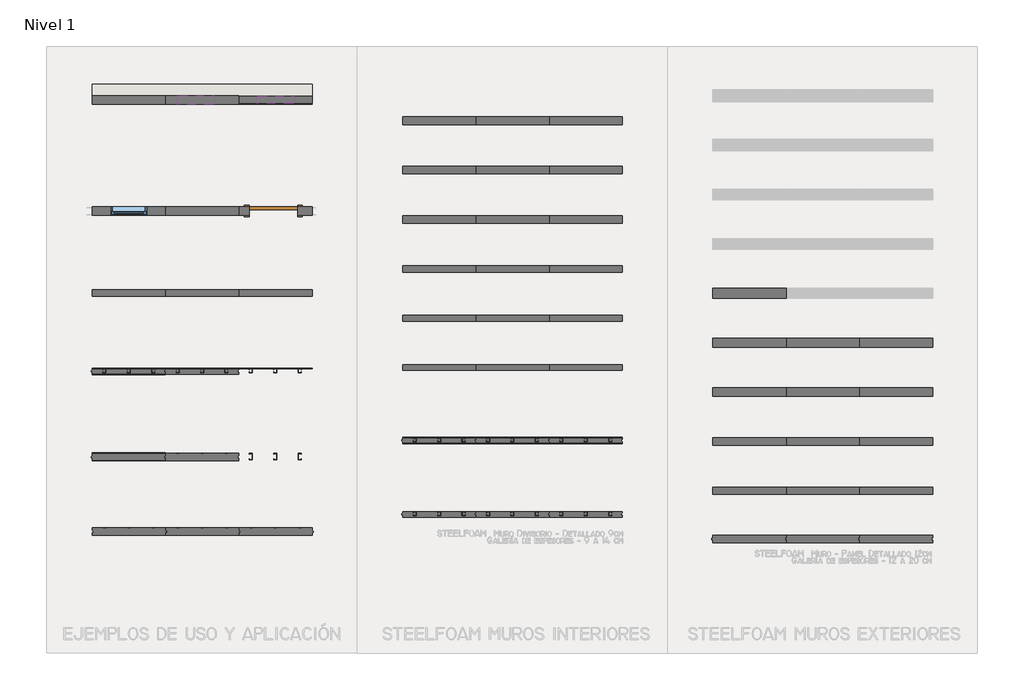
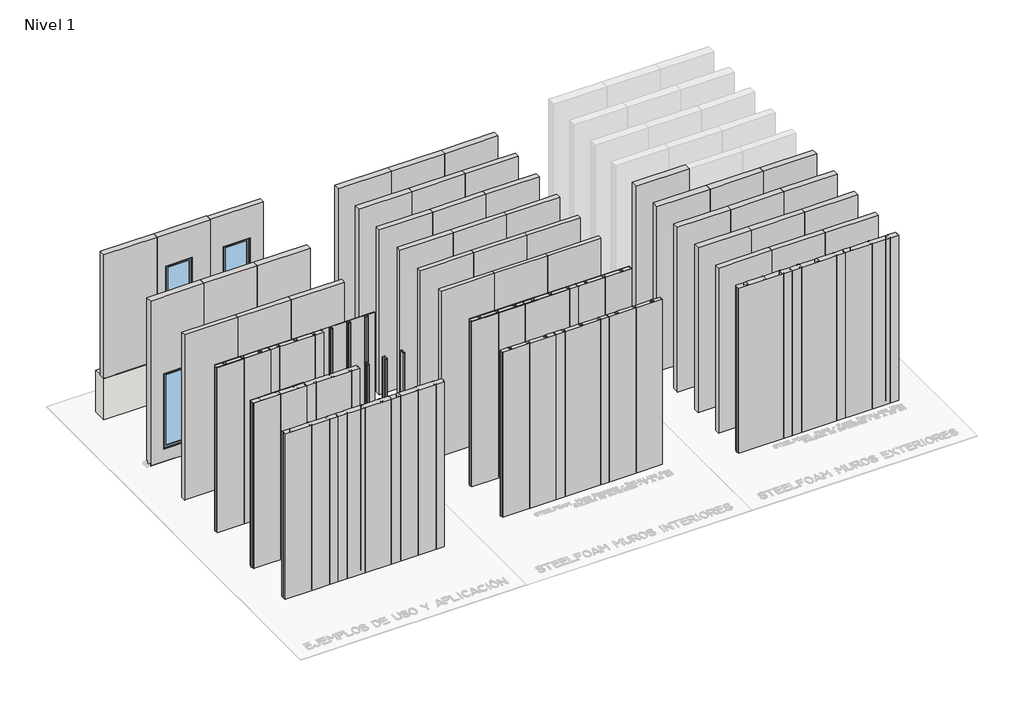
# One storey, part 1 of 6: 58 plates, 3 windows, 1 door, 1 wall.
"""IFC4 building model written with IfcOpenShell, lengths in millimetres."""

from ifc_helpers import new_model, si_unit, frame, origin, origin_with_axes, place, context, project, spatial, polyline, circle_curve, outline, extrude, faceted_brep, transform, mapped, element, save
from ifc_brep_helpers import plane_surface, cylinder_surface, revolved_surface, advanced_brep
from components import m_simple_a_ras_0813_x_2134mm_d0a8a436, plate_1ff2c585, plate_901790f3, plate_38784041, plate_d48fab5e, muro_12cm_0656d7b9, muro_12cm_a0bc951b, muro_12cm_e915ec84, muro_12cm_3b9f7b31, m_fijo_0610_x_1830mm_d2084b0e, m_fijo_0610_x_1830mm_736b37eb

model = new_model("IFC4")

# Units and contexts
model_context = context("Model", 3, world=origin())
ifc_project = project(units=[si_unit("LENGTHUNIT", "METRE", prefix="MILLI")], contexts=[model_context])

# Site, building, storey
site = spatial("IfcSite", under=ifc_project)
building = spatial("IfcBuilding", under=site)
storey = spatial("IfcBuildingStorey", under=building, Name="Nivel 1", Elevation=0.0)

# Door
placement = place(None, origin())
m_simple_a_ras_0813_x_2134mm_shape = m_simple_a_ras_0813_x_2134mm_d0a8a436(model_context)
element("IfcDoor", 1, ObjectType="M_Simple-A ras : 0813 x 2134mm", at=placement, inside=storey, context=model_context, shape_type="MappedRepresentation", body=[
    mapped(m_simple_a_ras_0813_x_2134mm_shape, transform((577.3592566, -2445.0871251, 0.0), x_axis=(-1.0, 0.0, 0.0), y_axis=(0.0, -1.0, 0.0), z_axis=(0.0, 0.0, 1.0))),
])

# Plates
element("IfcPlate", 2, ObjectType="Steelfoam Muro 12cm Acabados", at=placement, inside=storey, context=model_context, shape_type="AdvancedBrep", body=[
    advanced_brep(
    [(1219.8592563, -2516.5871251, 0.0), (1219.8592563, -2516.5871251, 4000.0), (-0.1407434, -2516.5871251, 4000.0), (-0.1407434, -2516.5871251, 0.0), (170.8592566, -2516.5871251, 0.0), (170.8592566, -2516.5871251, 2134.0), (983.8592566, -2516.5871251, 2134.0), (983.8592566, -2516.5871251, 0.0), (1219.8592563, -2373.5871251, 4000.0), (1219.8592563, -2373.5871251, 0.0), (983.8592566, -2373.5871251, 0.0), (983.8592566, -2373.5871251, 2134.0), (170.8592566, -2373.5871251, 2134.0), (170.8592566, -2373.5871251, 0.0), (-0.1407434, -2373.5871251, 0.0), (-0.1407434, -2373.5871251, 4000.0), (-0.1407434, -2504.5871251, 0.0), (170.8592566, -2504.5871251, 0.0), (170.8592566, -2392.5871251, 0.0), (-0.1407434, -2392.5871251, 0.0), (983.8592566, -2504.5871251, 0.0), (1219.8592563, -2504.5871251, 0.0), (1219.8592563, -2392.5871251, 0.0), (983.8592566, -2392.5871251, 0.0), (1219.8592563, -2508.7871251, 4.2), (1219.8592563, -2508.7871251, 60.2), (1219.8592563, -2508.5871251, 59.3126662), (1219.8592563, -2508.5871251, 4.2), (1219.8592563, -2504.5871251, 0.2), (1219.8592563, -2392.5871251, 0.2), (1219.8592563, -2388.5871251, 4.2), (1219.8592563, -2388.5871251, 59.3231849), (1219.8592563, -2388.3871251, 60.2), (1219.8592563, -2388.3871251, 4.2), (-0.1407434, -2388.3871251, 4.2), (-0.1407434, -2388.3871251, 60.2), (-0.1407434, -2388.5871251, 59.3231849), (-0.1407434, -2388.5871251, 4.2), (-0.1407434, -2392.5871251, 0.2), (-0.1407434, -2504.5871251, 0.2), (-0.1407434, -2508.5871251, 4.2), (-0.1407434, -2508.5871251, 59.3126662), (-0.1407434, -2508.7871251, 60.2), (-0.1407434, -2508.7871251, 4.2), (170.8592566, -2504.5871251, 0.2), (170.8592566, -2392.5871251, 0.2), (170.8592566, -2388.5871251, 4.2), (170.8592566, -2388.5871251, 59.3231849), (170.8592566, -2388.3871251, 60.2), (170.8592566, -2388.3871251, 4.2), (170.8592566, -2508.7871251, 4.2), (170.8592566, -2508.7871251, 60.2), (170.8592566, -2508.5871251, 59.3126662), (170.8592566, -2508.5871251, 4.2), (983.8592566, -2388.3871251, 4.2), (983.8592566, -2388.3871251, 60.2), (983.8592566, -2388.5871251, 59.3231849), (983.8592566, -2388.5871251, 4.2), (983.8592566, -2392.5871251, 0.2), (983.8592566, -2504.5871251, 0.2), (983.8592566, -2508.5871251, 4.2), (983.8592566, -2508.5871251, 59.3126662), (983.8592566, -2508.7871251, 60.2), (983.8592566, -2508.7871251, 4.2)],
    [
        (0, 1),
        (1, 2),
        (2, 3),
        (3, 4),
        (4, 5),
        (5, 6),
        (6, 7),
        (7, 0),
        (8, 9),
        (9, 10),
        (10, 11),
        (11, 12),
        (12, 13),
        (13, 14),
        (14, 15),
        (15, 8),
        (3, 16),
        (16, 17),
        (17, 4),
        (13, 18),
        (18, 19),
        (19, 14),
        (7, 20),
        (20, 21),
        (21, 0),
        (9, 22),
        (22, 23),
        (23, 10),
        (21, 24, circle_curve(frame((1219.8592563, -2504.5871251, 4.2), z_axis=(-1.0, 0.0, 0.0), x_axis=(0.0, -1.0, 0.0)), 4.2)),
        (24, 25),
        (25, 26),
        (26, 27),
        (27, 28, circle_curve(frame((1219.8592563, -2504.5871251, 4.2), z_axis=(1.0, 0.0, 0.0), x_axis=(0.0, -1.0, 0.0)), 4.0)),
        (28, 29),
        (29, 30, circle_curve(frame((1219.8592563, -2392.5871251, 4.2), z_axis=(1.0, 0.0, 0.0), x_axis=(0.0, -1.0, 0.0)), 4.0)),
        (30, 31),
        (31, 32),
        (32, 33),
        (33, 22, circle_curve(frame((1219.8592563, -2392.5871251, 4.2), z_axis=(-1.0, 0.0, 0.0), x_axis=(0.0, -1.0, 0.0)), 4.2)),
        (8, 1),
        (15, 2),
        (19, 34, circle_curve(frame((-0.1407434, -2392.5871251, 4.2), z_axis=(1.0, 0.0, 0.0), x_axis=(0.0, -1.0, 0.0)), 4.2)),
        (34, 35),
        (35, 36),
        (36, 37),
        (37, 38, circle_curve(frame((-0.1407434, -2392.5871251, 4.2), z_axis=(-1.0, 0.0, 0.0), x_axis=(0.0, -1.0, 0.0)), 4.0)),
        (38, 39),
        (39, 40, circle_curve(frame((-0.1407434, -2504.5871251, 4.2), z_axis=(-1.0, 0.0, 0.0), x_axis=(0.0, -1.0, 0.0)), 4.0)),
        (40, 41),
        (41, 42),
        (42, 43),
        (43, 16, circle_curve(frame((-0.1407434, -2504.5871251, 4.2), z_axis=(1.0, 0.0, 0.0), x_axis=(0.0, -1.0, 0.0)), 4.2)),
        (44, 39),
        (38, 45),
        (45, 44),
        (37, 46),
        (46, 45, circle_curve(frame((170.8592566, -2392.5871251, 4.2), z_axis=(-1.0, 0.0, 0.0), x_axis=(0.0, -1.0, 0.0)), 4.0)),
        (36, 47),
        (47, 46),
        (35, 48),
        (48, 47),
        (34, 49),
        (49, 48),
        (18, 49, circle_curve(frame((170.8592566, -2392.5871251, 4.2), z_axis=(1.0, 0.0, 0.0), x_axis=(0.0, -1.0, 0.0)), 4.2)),
        (43, 50),
        (50, 17, circle_curve(frame((170.8592566, -2504.5871251, 4.2), z_axis=(1.0, 0.0, 0.0), x_axis=(0.0, -1.0, 0.0)), 4.2)),
        (51, 42),
        (41, 52),
        (52, 51),
        (40, 53),
        (53, 52),
        (44, 53, circle_curve(frame((170.8592566, -2504.5871251, 4.2), z_axis=(-1.0, 0.0, 0.0), x_axis=(0.0, -1.0, 0.0)), 4.0)),
        (51, 50),
        (12, 5),
        (11, 6),
        (23, 54, circle_curve(frame((983.8592566, -2392.5871251, 4.2), z_axis=(1.0, 0.0, 0.0), x_axis=(0.0, -1.0, 0.0)), 4.2)),
        (54, 55),
        (55, 56),
        (56, 57),
        (57, 58, circle_curve(frame((983.8592566, -2392.5871251, 4.2), z_axis=(-1.0, 0.0, 0.0), x_axis=(0.0, -1.0, 0.0)), 4.0)),
        (58, 59),
        (59, 60, circle_curve(frame((983.8592566, -2504.5871251, 4.2), z_axis=(-1.0, 0.0, 0.0), x_axis=(0.0, -1.0, 0.0)), 4.0)),
        (60, 61),
        (61, 62),
        (62, 63),
        (63, 20, circle_curve(frame((983.8592566, -2504.5871251, 4.2), z_axis=(1.0, 0.0, 0.0), x_axis=(0.0, -1.0, 0.0)), 4.2)),
        (28, 59),
        (58, 29),
        (57, 30),
        (56, 31),
        (55, 32),
        (54, 33),
        (63, 24),
        (62, 25),
        (61, 26),
        (60, 27),
    ],
    [
        plane_surface(frame((79.8592563, -2516.5871251, 0.0), z_axis=(0.0, -1.0, 0.0), x_axis=(1.0, 0.0, 0.0))),
        plane_surface(frame((79.8592563, -2373.5871251, 0.0), z_axis=(0.0, 1.0, 0.0), x_axis=(-1.0, 0.0, 0.0))),
        plane_surface(frame((-0.1407434, -2516.5871251, 0.0), z_axis=(0.0, 0.0, -1.0), x_axis=(0.0, 1.0, 0.0))),
        plane_surface(frame((1219.8592563, -2516.5871251, 0.0), z_axis=(1.0, 0.0, 0.0), x_axis=(0.0, 1.0, 0.0))),
        plane_surface(frame((1219.8592563, -2516.5871251, 4000.0), z_axis=(0.0, 0.0, 1.0), x_axis=(0.0, 1.0, 0.0))),
        plane_surface(frame((-0.1407434, -2516.5871251, 4000.0), z_axis=(-1.0, 0.0, 0.0), x_axis=(0.0, 1.0, 0.0))),
        plane_surface(frame((-2529.1407434, -2504.5871251, 0.2), z_axis=(0.0, 0.0, -1.0), x_axis=(1.0, 0.0, 0.0))),
        cylinder_surface(frame((-2529.1407434, -2392.5871251, 4.2), z_axis=(1.0, 0.0, 0.0), x_axis=(0.0, -1.0, 0.0)), 4.0),
        plane_surface(frame((-2529.1407434, -2388.5871251, 4.2), z_axis=(0.0, 1.0, 0.0), x_axis=(1.0, 0.0, 0.0))),
        plane_surface(frame((-2529.1407434, -2388.5871251, 59.3231849), z_axis=(0.0, 0.9749586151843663, -0.2223863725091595), x_axis=(1.0, 0.0, 0.0))),
        plane_surface(frame((-2529.1407434, -2388.3871251, 60.2), z_axis=(0.0, -1.0, 0.0), x_axis=(1.0, 0.0, 0.0))),
        revolved_surface(polyline([(-0.14074339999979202, -2396.7871250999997, 4.2), (170.8592566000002, -2396.7871250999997, 4.2)]), (-2529.1407434, -2392.5871251, 4.2), (-1.0, 0.0, 0.0)),
        revolved_surface(polyline([(-0.14074339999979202, -2508.7871250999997, 4.2), (170.8592566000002, -2508.7871250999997, 4.2)]), (-2529.1407434, -2504.5871251, 4.2), (-1.0, 0.0, 0.0)),
        plane_surface(frame((-2529.1407434, -2508.7871251, 60.2), z_axis=(0.0, -0.9755273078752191, -0.21987831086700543), x_axis=(1.0, 0.0, 0.0))),
        plane_surface(frame((-2529.1407434, -2508.5871251, 59.3126662), z_axis=(0.0, -1.0, 0.0), x_axis=(1.0, 0.0, 0.0))),
        cylinder_surface(frame((-2529.1407434, -2504.5871251, 4.2), z_axis=(1.0, 0.0, 0.0), x_axis=(0.0, -1.0, 0.0)), 4.0),
        plane_surface(frame((-2529.1407434, -2508.7871251, 4.2), z_axis=(0.0, 1.0, 0.0), x_axis=(1.0, 0.0, 0.0))),
        plane_surface(frame((170.8592566, -992.5871251, 0.0), z_axis=(1.0, 0.0, 0.0), x_axis=(0.0, -1.0, 0.0))),
        plane_surface(frame((170.8592566, -992.5871251, 2134.0), z_axis=(0.0, 0.0, -1.0), x_axis=(0.0, -1.0, 0.0))),
        plane_surface(frame((983.8592566, -992.5871251, 2134.0), z_axis=(-1.0, 0.0, 0.0), x_axis=(0.0, -1.0, 0.0))),
        plane_surface(frame((983.8592566, -2504.5871251, 0.2), z_axis=(0.0, 0.0, -1.0), x_axis=(1.0, 0.0, 0.0))),
        cylinder_surface(frame((983.8592566, -2392.5871251, 4.2), z_axis=(1.0, 0.0, 0.0), x_axis=(0.0, -1.0, 0.0)), 4.0),
        plane_surface(frame((983.8592566, -2388.5871251, 4.2), z_axis=(0.0, 1.0, 0.0), x_axis=(1.0, 0.0, 0.0))),
        plane_surface(frame((983.8592566, -2388.5871251, 59.3231849), z_axis=(0.0, 0.9749586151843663, -0.2223863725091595), x_axis=(1.0, 0.0, 0.0))),
        plane_surface(frame((983.8592566, -2388.3871251, 60.2), z_axis=(0.0, -1.0, 0.0), x_axis=(1.0, 0.0, 0.0))),
        revolved_surface(polyline([(983.8592566, -2396.7871250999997, 4.2), (1219.8592563, -2396.7871250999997, 4.2)]), (983.8592566, -2392.5871251, 4.2), (-1.0, 0.0, 0.0)),
        revolved_surface(polyline([(983.8592566, -2508.7871250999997, 4.2), (1219.8592563, -2508.7871250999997, 4.2)]), (983.8592566, -2504.5871251, 4.2), (-1.0, 0.0, 0.0)),
        plane_surface(frame((983.8592566, -2508.7871251, 4.2), z_axis=(0.0, 1.0, 0.0), x_axis=(1.0, 0.0, 0.0))),
        plane_surface(frame((983.8592566, -2508.7871251, 60.2), z_axis=(0.0, -0.9755273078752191, -0.21987831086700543), x_axis=(1.0, 0.0, 0.0))),
        plane_surface(frame((983.8592566, -2508.5871251, 59.3126662), z_axis=(0.0, -1.0, 0.0), x_axis=(1.0, 0.0, 0.0))),
        cylinder_surface(frame((983.8592566, -2504.5871251, 4.2), z_axis=(1.0, 0.0, 0.0), x_axis=(0.0, -1.0, 0.0)), 4.0),
    ],
    [
        (0, [[1, 2, 3, 4, 5, 6, 7, 8]]),
        (1, [[9, 10, 11, 12, 13, 14, 15, 16]]),
        (2, [[-4, 17, 18, 19]]),
        (2, [[-14, 20, 21, 22]]),
        (2, [[-8, 23, 24, 25]]),
        (2, [[-10, 26, 27, 28]]),
        (3, [[-1, -25, 29, 30, 31, 32, 33, 34, 35, 36, 37, 38, 39, -26, -9, 40]]),
        (4, [[-2, -40, -16, 41]]),
        (5, [[-3, -41, -15, -22, 42, 43, 44, 45, 46, 47, 48, 49, 50, 51, 52, -17]]),
        (6, [[53, -47, 54, 55]]),
        (7, [[-54, -46, 56, 57]]),
        (8, [[-56, -45, 58, 59]]),
        (9, [[-58, -44, 60, 61]]),
        (10, [[-60, -43, 62, 63]]),
        (11, [[-62, -42, -21, 64]]),
        (12, [[65, 66, -18, -52]]),
        (13, [[67, -50, 68, 69]]),
        (14, [[-68, -49, 70, 71]]),
        (15, [[-53, 72, -70, -48]]),
        (16, [[-67, 73, -65, -51]]),
        (17, [[74, -5, -19, -66, -73, -69, -71, -72, -55, -57, -59, -61, -63, -64, -20, -13]]),
        (18, [[-74, -12, 75, -6]]),
        (19, [[-75, -11, -28, 76, 77, 78, 79, 80, 81, 82, 83, 84, 85, 86, -23, -7]]),
        (20, [[87, -81, 88, -34]]),
        (21, [[-88, -80, 89, -35]]),
        (22, [[-89, -79, 90, -36]]),
        (23, [[-90, -78, 91, -37]]),
        (24, [[-91, -77, 92, -38]]),
        (25, [[-92, -76, -27, -39]]),
        (26, [[93, -29, -24, -86]]),
        (27, [[-93, -85, 94, -30]]),
        (28, [[-94, -84, 95, -31]]),
        (29, [[-95, -83, 96, -32]]),
        (30, [[-87, -33, -96, -82]]),
    ],
),
])
element("IfcPlate", 3, ObjectType="Steelfoam Muro 12cm Acabados", at=placement, inside=storey, context=model_context, shape_type="SweptSolid", body=[
    extrude(outline(polyline([(-0.1407434, -2516.5871251), (-1220.1407434, -2516.5871251), (-1220.1407434, -2373.5871251), (-0.1407434, -2373.5871251), (-0.1407434, -2516.5871251)])), origin_with_axes(), (0.0, 0.0, 1.0), 4000.0),
])
element("IfcPlate", 4, ObjectType="Steelfoam Muro 12cm Acabados", at=placement, inside=storey, context=model_context, shape_type="SweptSolid", body=[
    extrude(outline(polyline([(1000.0, -1220.1407434), (1000.0, -0.1407434), (4000.0, -0.1407434), (4000.0, -1220.1407434), (1000.0, -1220.1407434)]), holes=[polyline([(3230.0, -410.1407434), (1400.0, -410.1407434), (1400.0, -1020.1407434), (3230.0, -1020.1407434), (3230.0, -410.1407434)])]), frame((0.0, -665.6879397, 0.0), z_axis=(0.0, 1.0, 0.0), x_axis=(0.0, 0.0, 1.0)), (0.0, 0.0, 1.0), 143.0),
])
element("IfcPlate", 5, ObjectType="Steelfoam Muro 12cm", at=placement, inside=storey, context=model_context, shape_type="SweptSolid", body=[
    extrude(outline(polyline([(1000.0, -0.1407434), (1000.0, 1219.8592563), (4000.0, 1219.8592563), (4000.0, -0.1407434), (1000.0, -0.1407434)]), holes=[polyline([(3230.0, 914.8592565), (1400.0, 914.8592565), (1400.0, 304.8592565), (3230.0, 304.8592565), (3230.0, 914.8592565)])]), frame((0.0, -654.1879397, 0.0), z_axis=(0.0, 1.0, 0.0), x_axis=(0.0, 0.0, 1.0)), (0.0, 0.0, 1.0), 120.0),
])
element("IfcPlate", 6, ObjectType="Steelfoam Muro 12cm Acabados", at=placement, inside=storey, context=model_context, shape_type="SweptSolid", body=[
    extrude(outline(polyline([(0.0, -2440.1407437), (0.0, -1220.1407434), (4000.0, -1220.1407434), (4000.0, -2440.1407437), (0.0, -2440.1407437)]), holes=[polyline([(2135.0, -1525.1407435), (305.0, -1525.1407435), (305.0, -2135.1407435), (2135.0, -2135.1407435), (2135.0, -1525.1407435)])]), frame((0.0, -2516.5871251, 0.0), z_axis=(0.0, 1.0, 0.0), x_axis=(0.0, 0.0, 1.0)), (0.0, 0.0, 1.0), 143.0),
])
element("IfcPlate", 7, ObjectType="Steelfoam Muro 12cm Acabados", at=placement, inside=storey, context=model_context, shape_type="SweptSolid", body=[
    extrude(outline(polyline([(-1220.1407434, -665.6879397), (-2440.1407437, -665.6879397), (-2440.1407437, -522.6879397), (-1220.1407434, -522.6879397), (-1220.1407434, -665.6879397)])), frame((0.0, 0.0, 1000.0), z_axis=(0.0, 0.0, 1.0), x_axis=(1.0, 0.0, 0.0)), (0.0, 0.0, 1.0), 3000.0),
])
element("IfcPlate", 8, ObjectType="Steelfoam Muro 12cm", at=placement, inside=storey, context=model_context, shape_type="SweptSolid", body=[
    extrude(outline(polyline([(11553.8816566, -7163.5374304), (10333.8816569, -7163.5374304), (10333.8816569, -7043.5374304), (11553.8816566, -7043.5374304), (11553.8816566, -7163.5374304)])), origin_with_axes(), (0.0, 0.0, 1.0), 4000.0),
])
element("IfcPlate", 9, ObjectType="Steelfoam Muro 12cm", at=placement, inside=storey, context=model_context, shape_type="SweptSolid", body=[
    extrude(outline(polyline([(10333.8816569, -7163.5374304), (9113.8816569, -7163.5374304), (9113.8816569, -7043.5374304), (10333.8816569, -7043.5374304), (10333.8816569, -7163.5374304)])), origin_with_axes(), (0.0, 0.0, 1.0), 4000.0),
])
element("IfcPlate", 10, ObjectType="Steelfoam Muro 12cm", at=placement, inside=storey, context=model_context, shape_type="SweptSolid", body=[
    extrude(outline(polyline([(9113.8816569, -7163.5374304), (7893.8816566, -7163.5374304), (7893.8816566, -7043.5374304), (9113.8816569, -7043.5374304), (9113.8816569, -7163.5374304)])), origin_with_axes(), (0.0, 0.0, 1.0), 4000.0),
])
element("IfcPlate", 11, ObjectType="Steelfoam Muro 13cm", at=placement, inside=storey, context=model_context, shape_type="SweptSolid", body=[
    extrude(outline(polyline([(11553.8816566, -6346.3152082), (10333.8816569, -6346.3152082), (10333.8816569, -6216.3152082), (11553.8816566, -6216.3152082), (11553.8816566, -6346.3152082)])), origin_with_axes(), (0.0, 0.0, 1.0), 4000.0),
])
element("IfcPlate", 12, ObjectType="Steelfoam Muro 13cm", at=placement, inside=storey, context=model_context, shape_type="SweptSolid", body=[
    extrude(outline(polyline([(10333.8816569, -6346.3152082), (9113.8816569, -6346.3152082), (9113.8816569, -6216.3152082), (10333.8816569, -6216.3152082), (10333.8816569, -6346.3152082)])), origin_with_axes(), (0.0, 0.0, 1.0), 4000.0),
])
element("IfcPlate", 13, ObjectType="Steelfoam Muro 13cm", at=placement, inside=storey, context=model_context, shape_type="SweptSolid", body=[
    extrude(outline(polyline([(9113.8816569, -6346.3152082), (7893.8816566, -6346.3152082), (7893.8816566, -6216.3152082), (9113.8816569, -6216.3152082), (9113.8816569, -6346.3152082)])), origin_with_axes(), (0.0, 0.0, 1.0), 4000.0),
])
element("IfcPlate", 14, ObjectType="Steelfoam Divisorio 14cm", at=placement, inside=storey, context=model_context, shape_type="SweptSolid", body=[
    extrude(outline(polyline([(11553.8816566, -5529.092986), (10333.8816569, -5529.092986), (10333.8816569, -5389.092986), (11553.8816566, -5389.092986), (11553.8816566, -5529.092986)])), origin_with_axes(), (0.0, 0.0, 1.0), 4000.0),
])
element("IfcPlate", 15, ObjectType="Steelfoam Divisorio 14cm", at=placement, inside=storey, context=model_context, shape_type="SweptSolid", body=[
    extrude(outline(polyline([(10333.8816569, -5529.092986), (9113.8816569, -5529.092986), (9113.8816569, -5389.092986), (10333.8816569, -5389.092986), (10333.8816569, -5529.092986)])), origin_with_axes(), (0.0, 0.0, 1.0), 4000.0),
])
element("IfcPlate", 16, ObjectType="Steelfoam Divisorio 14cm", at=placement, inside=storey, context=model_context, shape_type="SweptSolid", body=[
    extrude(outline(polyline([(9113.8816569, -5529.092986), (7893.8816566, -5529.092986), (7893.8816566, -5389.092986), (9113.8816569, -5389.092986), (9113.8816569, -5529.092986)])), origin_with_axes(), (0.0, 0.0, 1.0), 4000.0),
])
element("IfcPlate", 17, ObjectType="Steelfoam Muro 15cm", at=placement, inside=storey, context=model_context, shape_type="SweptSolid", body=[
    extrude(outline(polyline([(11553.8816566, -4711.8707637), (10333.8816569, -4711.8707637), (10333.8816569, -4561.8707637), (11553.8816566, -4561.8707637), (11553.8816566, -4711.8707637)])), origin_with_axes(), (0.0, 0.0, 1.0), 4000.0),
])
element("IfcPlate", 18, ObjectType="Steelfoam Muro 15cm", at=placement, inside=storey, context=model_context, shape_type="SweptSolid", body=[
    extrude(outline(polyline([(10333.8816569, -4711.8707637), (9113.8816569, -4711.8707637), (9113.8816569, -4561.8707637), (10333.8816569, -4561.8707637), (10333.8816569, -4711.8707637)])), origin_with_axes(), (0.0, 0.0, 1.0), 4000.0),
])
element("IfcPlate", 19, ObjectType="Steelfoam Muro 15cm", at=placement, inside=storey, context=model_context, shape_type="SweptSolid", body=[
    extrude(outline(polyline([(9113.8816569, -4711.8707637), (7893.8816566, -4711.8707637), (7893.8816566, -4561.8707637), (9113.8816569, -4561.8707637), (9113.8816569, -4711.8707637)])), origin_with_axes(), (0.0, 0.0, 1.0), 4000.0),
])
element("IfcPlate", 20, ObjectType="Steelfoam Muro 16cm", at=placement, inside=storey, context=model_context, shape_type="SweptSolid", body=[
    extrude(outline(polyline([(9113.8816569, -3894.6485415), (7893.8816566, -3894.6485415), (7893.8816566, -3734.6485415), (9113.8816569, -3734.6485415), (9113.8816569, -3894.6485415)])), origin_with_axes(), (0.0, 0.0, 1.0), 4000.0),
])
element("IfcPlate", 21, ObjectType="Steelfoam Divisorio 12cm", at=placement, inside=storey, context=model_context, shape_type="SweptSolid", body=[
    extrude(outline(polyline([(6387.4091582, -2645.8736336), (5167.4091585, -2645.8736336), (5167.4091585, -2525.8736336), (6387.4091582, -2525.8736336), (6387.4091582, -2645.8736336)])), origin_with_axes(), (0.0, 0.0, 1.0), 4000.0),
])
element("IfcPlate", 22, ObjectType="Steelfoam Divisorio 12cm", at=placement, inside=storey, context=model_context, shape_type="SweptSolid", body=[
    extrude(outline(polyline([(5167.4091585, -2645.8736336), (3947.4091585, -2645.8736336), (3947.4091585, -2525.8736336), (5167.4091585, -2525.8736336), (5167.4091585, -2645.8736336)])), origin_with_axes(), (0.0, 0.0, 1.0), 4000.0),
])
element("IfcPlate", 23, ObjectType="Steelfoam Divisorio 12cm", at=placement, inside=storey, context=model_context, shape_type="SweptSolid", body=[
    extrude(outline(polyline([(3947.4091585, -2645.8736336), (2727.4091582, -2645.8736336), (2727.4091582, -2525.8736336), (3947.4091585, -2525.8736336), (3947.4091585, -2645.8736336)])), origin_with_axes(), (0.0, 0.0, 1.0), 4000.0),
])
element("IfcPlate", 24, ObjectType="Steelfoam Divisorio 13cm", at=placement, inside=storey, context=model_context, shape_type="SweptSolid", body=[
    extrude(outline(polyline([(6387.4091582, -1828.6514114), (5167.4091585, -1828.6514114), (5167.4091585, -1698.6514114), (6387.4091582, -1698.6514114), (6387.4091582, -1828.6514114)])), origin_with_axes(), (0.0, 0.0, 1.0), 4000.0),
])
element("IfcPlate", 25, ObjectType="Steelfoam Divisorio 13cm", at=placement, inside=storey, context=model_context, shape_type="SweptSolid", body=[
    extrude(outline(polyline([(5167.4091585, -1828.6514114), (3947.4091585, -1828.6514114), (3947.4091585, -1698.6514114), (5167.4091585, -1698.6514114), (5167.4091585, -1828.6514114)])), origin_with_axes(), (0.0, 0.0, 1.0), 4000.0),
])
element("IfcPlate", 26, ObjectType="Steelfoam Divisorio 13cm", at=placement, inside=storey, context=model_context, shape_type="SweptSolid", body=[
    extrude(outline(polyline([(3947.4091585, -1828.6514114), (2727.4091582, -1828.6514114), (2727.4091582, -1698.6514114), (3947.4091585, -1698.6514114), (3947.4091585, -1828.6514114)])), origin_with_axes(), (0.0, 0.0, 1.0), 4000.0),
])
element("IfcPlate", 27, ObjectType="Steelfoam Divisorio 14cm", at=placement, inside=storey, context=model_context, shape_type="SweptSolid", body=[
    extrude(outline(polyline([(6387.4091582, -1011.4291891), (5167.4091585, -1011.4291891), (5167.4091585, -871.4291891), (6387.4091582, -871.4291891), (6387.4091582, -1011.4291891)])), origin_with_axes(), (0.0, 0.0, 1.0), 4000.0),
])
element("IfcPlate", 28, ObjectType="Steelfoam Divisorio 14cm", at=placement, inside=storey, context=model_context, shape_type="SweptSolid", body=[
    extrude(outline(polyline([(5167.4091585, -1011.4291891), (3947.4091585, -1011.4291891), (3947.4091585, -871.4291891), (5167.4091585, -871.4291891), (5167.4091585, -1011.4291891)])), origin_with_axes(), (0.0, 0.0, 1.0), 4000.0),
])
element("IfcPlate", 29, ObjectType="Steelfoam Divisorio 14cm", at=placement, inside=storey, context=model_context, shape_type="SweptSolid", body=[
    extrude(outline(polyline([(3947.4091585, -1011.4291891), (2727.4091582, -1011.4291891), (2727.4091582, -871.4291891), (3947.4091585, -871.4291891), (3947.4091585, -1011.4291891)])), origin_with_axes(), (0.0, 0.0, 1.0), 4000.0),
])
element("IfcPlate", 30, ObjectType="Steelfoam Divisorio 11cm", at=placement, inside=storey, context=model_context, shape_type="SweptSolid", body=[
    extrude(outline(polyline([(6387.4091582, -3463.0958558), (5167.4091585, -3463.0958558), (5167.4091585, -3353.0958558), (6387.4091582, -3353.0958558), (6387.4091582, -3463.0958558)])), origin_with_axes(), (0.0, 0.0, 1.0), 4000.0),
])
element("IfcPlate", 31, ObjectType="Steelfoam Divisorio 11cm", at=placement, inside=storey, context=model_context, shape_type="SweptSolid", body=[
    extrude(outline(polyline([(5167.4091585, -3463.0958558), (3947.4091585, -3463.0958558), (3947.4091585, -3353.0958558), (5167.4091585, -3353.0958558), (5167.4091585, -3463.0958558)])), origin_with_axes(), (0.0, 0.0, 1.0), 4000.0),
])
element("IfcPlate", 32, ObjectType="Steelfoam Divisorio 11cm", at=placement, inside=storey, context=model_context, shape_type="SweptSolid", body=[
    extrude(outline(polyline([(3947.4091585, -3463.0958558), (2727.4091582, -3463.0958558), (2727.4091582, -3353.0958558), (3947.4091585, -3353.0958558), (3947.4091585, -3463.0958558)])), origin_with_axes(), (0.0, 0.0, 1.0), 4000.0),
])
element("IfcPlate", 33, ObjectType="Steelfoam Divisorio 10cm", at=placement, inside=storey, context=model_context, shape_type="SweptSolid", body=[
    extrude(outline(polyline([(6387.4091582, -4280.318078), (5167.4091585, -4280.318078), (5167.4091585, -4180.318078), (6387.4091582, -4180.318078), (6387.4091582, -4280.318078)])), origin_with_axes(), (0.0, 0.0, 1.0), 4000.0),
])
element("IfcPlate", 34, ObjectType="Steelfoam Divisorio 10cm", at=placement, inside=storey, context=model_context, shape_type="SweptSolid", body=[
    extrude(outline(polyline([(5167.4091585, -4280.318078), (3947.4091585, -4280.318078), (3947.4091585, -4180.318078), (5167.4091585, -4180.318078), (5167.4091585, -4280.318078)])), origin_with_axes(), (0.0, 0.0, 1.0), 4000.0),
])
element("IfcPlate", 35, ObjectType="Steelfoam Divisorio 10cm", at=placement, inside=storey, context=model_context, shape_type="SweptSolid", body=[
    extrude(outline(polyline([(3947.4091585, -4280.318078), (2727.4091582, -4280.318078), (2727.4091582, -4180.318078), (3947.4091585, -4180.318078), (3947.4091585, -4280.318078)])), origin_with_axes(), (0.0, 0.0, 1.0), 4000.0),
])
element("IfcPlate", 36, ObjectType="Steelfoam Divisorio 9cm", at=placement, inside=storey, context=model_context, shape_type="SweptSolid", body=[
    extrude(outline(polyline([(6387.4091582, -5097.5403002), (5167.4091585, -5097.5403002), (5167.4091585, -5007.5403002), (6387.4091582, -5007.5403002), (6387.4091582, -5097.5403002)])), origin_with_axes(), (0.0, 0.0, 1.0), 4000.0),
])
element("IfcPlate", 37, ObjectType="Steelfoam Divisorio 9cm", at=placement, inside=storey, context=model_context, shape_type="SweptSolid", body=[
    extrude(outline(polyline([(5167.4091585, -5097.5403002), (3947.4091585, -5097.5403002), (3947.4091585, -5007.5403002), (5167.4091585, -5007.5403002), (5167.4091585, -5097.5403002)])), origin_with_axes(), (0.0, 0.0, 1.0), 4000.0),
])
element("IfcPlate", 38, ObjectType="Steelfoam Divisorio 9cm", at=placement, inside=storey, context=model_context, shape_type="SweptSolid", body=[
    extrude(outline(polyline([(3947.4091585, -5097.5403002), (2727.4091582, -5097.5403002), (2727.4091582, -5007.5403002), (3947.4091585, -5007.5403002), (3947.4091585, -5097.5403002)])), origin_with_axes(), (0.0, 0.0, 1.0), 4000.0),
])
element("IfcPlate", 39, ObjectType="Steelfoam Divisorio 9cm Acabados", at=placement, inside=storey, context=model_context, shape_type="SweptSolid", body=[
    extrude(outline(polyline([(1219.8592563, -3867.1908794), (-0.1407434, -3867.1908794), (-0.1407434, -3757.1908794), (1219.8592563, -3757.1908794), (1219.8592563, -3867.1908794)])), origin_with_axes(), (0.0, 0.0, 1.0), 4000.0),
])
element("IfcPlate", 40, ObjectType="Steelfoam Divisorio 9cm Acabados", at=placement, inside=storey, context=model_context, shape_type="SweptSolid", body=[
    extrude(outline(polyline([(-0.1407434, -3867.1908794), (-1220.1407434, -3867.1908794), (-1220.1407434, -3757.1908794), (-0.1407434, -3757.1908794), (-0.1407434, -3867.1908794)])), origin_with_axes(), (0.0, 0.0, 1.0), 4000.0),
])
element("IfcPlate", 41, ObjectType="Steelfoam Divisorio 9cm Acabados", at=placement, inside=storey, context=model_context, shape_type="SweptSolid", body=[
    extrude(outline(polyline([(-1220.1407434, -3867.1908794), (-2440.1407437, -3867.1908794), (-2440.1407437, -3757.1908794), (-1220.1407434, -3757.1908794), (-1220.1407434, -3867.1908794)])), origin_with_axes(), (0.0, 0.0, 1.0), 4000.0),
])
plate_shape = plate_1ff2c585(model_context)
element("IfcPlate", 42, ObjectType="Steelfoam Divisorio : Divisorio 9cm", at=placement, inside=storey, context=model_context, shape_type="MappedRepresentation", body=[
    mapped(plate_shape, transform((-1830.1407435, -5071.2942252, 0.0), x_axis=(1.0, 0.0, 0.0), y_axis=(0.0, 1.0, 0.0), z_axis=(0.0, 0.0, 1.0))),
])
element("IfcPlate", 43, ObjectType="Steelfoam Divisorio : Divisorio 9cm", at=placement, inside=storey, context=model_context, shape_type="MappedRepresentation", body=[
    mapped(plate_shape, transform((3337.4091583, -6223.5374304, 0.0), x_axis=(1.0, 0.0, 0.0), y_axis=(0.0, 1.0, 0.0), z_axis=(0.0, 0.0, 1.0))),
])
element("IfcPlate", 44, ObjectType="Steelfoam Divisorio : Divisorio 9cm", at=placement, inside=storey, context=model_context, shape_type="MappedRepresentation", body=[
    mapped(plate_shape, transform((4557.4091585, -6223.5374304, 0.0), x_axis=(1.0, 0.0, 0.0), y_axis=(0.0, 1.0, 0.0), z_axis=(0.0, 0.0, 1.0))),
])
element("IfcPlate", 45, ObjectType="Steelfoam Divisorio : Divisorio 9cm", at=placement, inside=storey, context=model_context, shape_type="MappedRepresentation", body=[
    mapped(plate_shape, transform((5777.4091583, -6223.5374304, 0.0), x_axis=(1.0, 0.0, 0.0), y_axis=(0.0, 1.0, 0.0), z_axis=(0.0, 0.0, 1.0))),
])
plate_2_shape = plate_901790f3(model_context)
element("IfcPlate", 46, ObjectType="Steelfoam Divisorio : Divisorio 9cm", at=placement, inside=storey, context=model_context, shape_type="MappedRepresentation", body=[
    mapped(plate_2_shape, transform((-610.1407434, -5071.2942252, 0.0), x_axis=(1.0, 0.0, 0.0), y_axis=(0.0, 1.0, 0.0), z_axis=(0.0, 0.0, 1.0))),
])
plate_3_shape = plate_38784041(model_context)
element("IfcPlate", 47, ObjectType="Steelfoam Divisorio : Divisorio 9cm", at=placement, inside=storey, context=model_context, shape_type="MappedRepresentation", body=[
    mapped(plate_3_shape, transform((609.8592565, -5071.2942252, 0.0), x_axis=(1.0, 0.0, 0.0), y_axis=(0.0, 1.0, 0.0), z_axis=(0.0, 0.0, 1.0))),
])
plate_4_shape = plate_d48fab5e(model_context)
element("IfcPlate", 48, ObjectType="Steelfoam Divisorio : Divisorio 9cm", at=placement, inside=storey, context=model_context, shape_type="MappedRepresentation", body=[
    mapped(plate_4_shape, transform((3337.4091583, -7452.3123384, 0.0), x_axis=(1.0, 0.0, 0.0), y_axis=(0.0, 1.0, 0.0), z_axis=(0.0, 0.0, 1.0))),
])
element("IfcPlate", 49, ObjectType="Steelfoam Divisorio : Divisorio 9cm", at=placement, inside=storey, context=model_context, shape_type="MappedRepresentation", body=[
    mapped(plate_4_shape, transform((4557.4091585, -7452.3123384, 0.0), x_axis=(1.0, 0.0, 0.0), y_axis=(0.0, 1.0, 0.0), z_axis=(0.0, 0.0, 1.0))),
])
element("IfcPlate", 50, ObjectType="Steelfoam Divisorio : Divisorio 9cm", at=placement, inside=storey, context=model_context, shape_type="MappedRepresentation", body=[
    mapped(plate_4_shape, transform((5777.4091583, -7452.3123384, 0.0), x_axis=(1.0, 0.0, 0.0), y_axis=(0.0, 1.0, 0.0), z_axis=(0.0, 0.0, 1.0))),
])
muro_12cm_shape = muro_12cm_0656d7b9(model_context)
element("IfcPlate", 51, ObjectType="Steelfoam Exterior : Muro 12cm", at=placement, inside=storey, context=model_context, shape_type="MappedRepresentation", body=[
    mapped(muro_12cm_shape, transform((-610.1407434, -6481.9879397, 0.0), x_axis=(1.0, 0.0, 0.0), y_axis=(0.0, 1.0, 0.0), z_axis=(0.0, 0.0, 1.0))),
])
element("IfcPlate", 52, ObjectType="Steelfoam Exterior : Muro 12cm", at=placement, inside=storey, context=model_context, shape_type="MappedRepresentation", body=[
    mapped(muro_12cm_shape, transform((8503.8816567, -7845.7596526, 0.0), x_axis=(1.0, 0.0, 0.0), y_axis=(0.0, 1.0, 0.0), z_axis=(0.0, 0.0, 1.0))),
])
element("IfcPlate", 53, ObjectType="Steelfoam Exterior : Muro 12cm", at=placement, inside=storey, context=model_context, shape_type="MappedRepresentation", body=[
    mapped(muro_12cm_shape, transform((9723.8816569, -7845.7596526, 0.0), x_axis=(1.0, 0.0, 0.0), y_axis=(0.0, 1.0, 0.0), z_axis=(0.0, 0.0, 1.0))),
])
element("IfcPlate", 54, ObjectType="Steelfoam Exterior : Muro 12cm", at=placement, inside=storey, context=model_context, shape_type="MappedRepresentation", body=[
    mapped(muro_12cm_shape, transform((10943.8816567, -7845.7596526, 0.0), x_axis=(1.0, 0.0, 0.0), y_axis=(0.0, 1.0, 0.0), z_axis=(0.0, 0.0, 1.0))),
])
muro_12cm_2_shape = muro_12cm_a0bc951b(model_context)
element("IfcPlate", 55, ObjectType="Steelfoam Exterior : Muro 12cm", at=placement, inside=storey, context=model_context, shape_type="MappedRepresentation", body=[
    mapped(muro_12cm_2_shape, transform((-1830.1407435, -6481.9879397, 0.0), x_axis=(1.0, 0.0, 0.0), y_axis=(0.0, 1.0, 0.0), z_axis=(0.0, 0.0, 1.0))),
])
muro_12cm_3_shape = muro_12cm_e915ec84(model_context)
element("IfcPlate", 56, ObjectType="Steelfoam Exterior : Muro 12cm", at=placement, inside=storey, context=model_context, shape_type="MappedRepresentation", body=[
    mapped(muro_12cm_3_shape, transform((609.8592562, -7721.9879397, 0.0), x_axis=(-1.0, 0.0, 0.0), y_axis=(0.0, -1.0, 0.0), z_axis=(0.0, 0.0, 1.0))),
])
element("IfcPlate", 57, ObjectType="Steelfoam Exterior : Muro 12cm", at=placement, inside=storey, context=model_context, shape_type="MappedRepresentation", body=[
    mapped(muro_12cm_3_shape, transform((-610.140744, -7721.9879397, 0.0), x_axis=(-1.0, 0.0, 0.0), y_axis=(0.0, -1.0, 0.0), z_axis=(0.0, 0.0, 1.0))),
])
element("IfcPlate", 58, ObjectType="Steelfoam Exterior : Muro 12cm", at=placement, inside=storey, context=model_context, shape_type="MappedRepresentation", body=[
    mapped(muro_12cm_3_shape, transform((-1830.1407438, -7721.9879397, 0.0), x_axis=(-1.0, 0.0, 0.0), y_axis=(0.0, -1.0, 0.0), z_axis=(0.0, 0.0, 1.0))),
])
muro_12cm_4_shape = muro_12cm_3b9f7b31(model_context)
element("IfcPlate", 59, ObjectType="Steelfoam Exterior : Muro 12cm", at=placement, inside=storey, context=model_context, shape_type="MappedRepresentation", body=[
    mapped(muro_12cm_4_shape, transform((609.8592565, -6481.9879397, 0.0), x_axis=(1.0, 0.0, 0.0), y_axis=(0.0, 1.0, 0.0), z_axis=(0.0, 0.0, 1.0))),
])

# Wall
element("IfcWall", 60, ObjectType="Fachada monocapa", at=placement, inside=storey, context=model_context, shape_type="Brep", body=[
    faceted_brep([(-2440.1407437, -665.6879397, 0.0), (1219.8592563, -665.6879397, 0.0), (1219.8592563, -665.6879397, 1000.0), (-2440.1407437, -665.6879397, 1000.0), (1219.8592563, -338.2879397, 0.0), (-2440.1407437, -338.2879397, 0.0), (-2440.1407437, -338.2879397, 1000.0), (1219.8592563, -338.2879397, 1000.0), (1219.8592563, -538.6879397, 1000.0), (1219.8592563, -650.6879397, 1000.0), (-2440.1407437, -538.6879397, 1000.0), (-2440.1407437, -650.6879397, 1000.0)], [[[0, 1, 2, 3]], [[4, 5, 6, 7]], [[1, 0, 5, 4]], [[2, 1, 4, 7, 8, 9]], [[3, 2, 9, 8, 7, 6, 10, 11]], [[0, 3, 11, 10, 6, 5]]]),
])

# Windows
m_fijo_0610_x_1830mm_shape = m_fijo_0610_x_1830mm_d2084b0e(model_context)
element("IfcWindow", 61, ObjectType="M_Fijo : 0610 x 1830mm", at=placement, inside=storey, context=model_context, shape_type="MappedRepresentation", body=[
    mapped(m_fijo_0610_x_1830mm_shape, transform((-1830.1407435, -2432.0871251, 0.0), x_axis=(-1.0, 0.0, 0.0), y_axis=(0.0, -1.0, 0.0), z_axis=(0.0, 0.0, 1.0))),
])
element("IfcWindow", 62, ObjectType="M_Fijo : 0610 x 1830mm", at=placement, inside=storey, context=model_context, shape_type="MappedRepresentation", body=[
    mapped(m_fijo_0610_x_1830mm_shape, transform((-715.1407434, -581.1879397, 1095.0), x_axis=(-1.0, 0.0, 0.0), y_axis=(0.0, -1.0, 0.0), z_axis=(0.0, 0.0, 1.0))),
])
m_fijo_0610_x_1830mm_2_shape = m_fijo_0610_x_1830mm_736b37eb(model_context)
element("IfcWindow", 63, ObjectType="M_Fijo : 0610 x 1830mm", at=placement, inside=storey, context=model_context, shape_type="MappedRepresentation", body=[
    mapped(m_fijo_0610_x_1830mm_2_shape, transform((609.8592565, -581.1879397, 1095.0), x_axis=(-1.0, 0.0, 0.0), y_axis=(0.0, -1.0, 0.0), z_axis=(0.0, 0.0, 1.0))),
])

save(model, "model.ifc")
